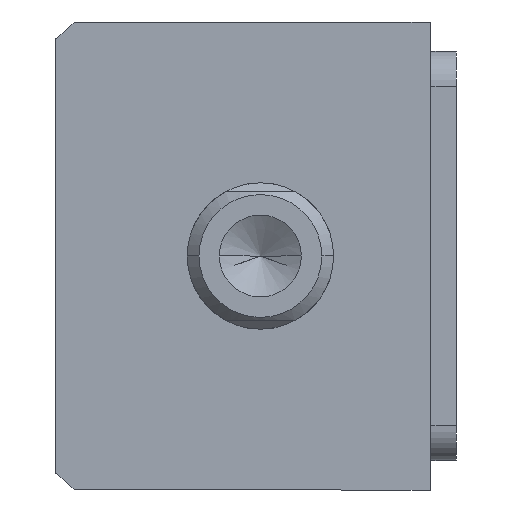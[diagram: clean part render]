
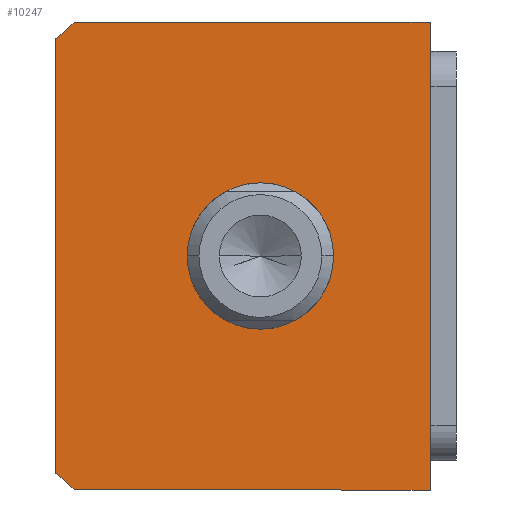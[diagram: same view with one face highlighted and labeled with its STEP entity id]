
A CAD part, front view. The second image highlights one B-rep face of the part: STEP entity #10247.
In plain terms, the highlighted planar face has unit normal (0, -1, 0) as drawn and (0, 0, -1) by its records, which use the part's own axes.
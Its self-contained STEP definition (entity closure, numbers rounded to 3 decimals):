
#61 = VECTOR ( 'NONE', #9119, 1000. ) ;
#198 = CARTESIAN_POINT ( 'NONE',  ( 37.094, -32., 0. ) ) ;
#384 = DIRECTION ( 'NONE',  ( 0., 0., 1. ) ) ;
#389 = CIRCLE ( 'NONE', #8654, 51. ) ;
#446 = CIRCLE ( 'NONE', #6146, 12.5 ) ;
#479 = ORIENTED_EDGE ( 'NONE', *, *, #9568, .F. ) ;
#485 = CARTESIAN_POINT ( 'NONE',  ( 0., 3., 0. ) ) ;
#749 = ORIENTED_EDGE ( 'NONE', *, *, #9219, .T. ) ;
#975 = VERTEX_POINT ( 'NONE', #7012 ) ;
#1018 = CARTESIAN_POINT ( 'NONE',  ( -40., 32., 0. ) ) ;
#1359 = DIRECTION ( 'NONE',  ( 1., 0., 0. ) ) ;
#1488 = CARTESIAN_POINT ( 'NONE',  ( 0., 3., 0. ) ) ;
#1502 = CARTESIAN_POINT ( 'NONE',  ( -40., -32., 0. ) ) ;
#1606 = CARTESIAN_POINT ( 'NONE',  ( -37.094, -32., 0. ) ) ;
#1637 = LINE ( 'NONE', #3510, #3853 ) ;
#1672 = DIRECTION ( 'NONE',  ( 0., 0., 1. ) ) ;
#2000 = VERTEX_POINT ( 'NONE', #9086 ) ;
#2053 = EDGE_CURVE ( 'NONE', #5499, #2786, #4530, .T. ) ;
#2142 = CARTESIAN_POINT ( 'NONE',  ( 40., -28.639, 0. ) ) ;
#2261 = VERTEX_POINT ( 'NONE', #198 ) ;
#2333 = DIRECTION ( 'NONE',  ( 1., 0., 0. ) ) ;
#2393 = CARTESIAN_POINT ( 'NONE',  ( 0., 0., 0. ) ) ;
#2430 = CARTESIAN_POINT ( 'NONE',  ( -12.5, 3., 0. ) ) ;
#2558 = CIRCLE ( 'NONE', #10325, 51. ) ;
#2615 = VERTEX_POINT ( 'NONE', #5564 ) ;
#2786 = VERTEX_POINT ( 'NONE', #8137 ) ;
#3180 = DIRECTION ( 'NONE',  ( 1., 0., 0. ) ) ;
#3452 = ORIENTED_EDGE ( 'NONE', *, *, #8664, .F. ) ;
#3510 = CARTESIAN_POINT ( 'NONE',  ( -40., 32., 0. ) ) ;
#3577 = LINE ( 'NONE', #1502, #9564 ) ;
#3853 = VECTOR ( 'NONE', #4307, 1000. ) ;
#3897 = VERTEX_POINT ( 'NONE', #2430 ) ;
#4051 = DIRECTION ( 'NONE',  ( 1., 0., 0. ) ) ;
#4307 = DIRECTION ( 'NONE',  ( 0., -1., 0. ) ) ;
#4530 = LINE ( 'NONE', #9955, #61 ) ;
#4668 = ORIENTED_EDGE ( 'NONE', *, *, #7062, .T. ) ;
#5061 = FACE_OUTER_BOUND ( 'NONE', #6827, .T. ) ;
#5099 = ORIENTED_EDGE ( 'NONE', *, *, #8239, .F. ) ;
#5313 = AXIS2_PLACEMENT_3D ( 'NONE', #6603, #1672, #7403 ) ;
#5373 = CARTESIAN_POINT ( 'NONE',  ( 0., 3., 0. ) ) ;
#5499 = VERTEX_POINT ( 'NONE', #2142 ) ;
#5564 = CARTESIAN_POINT ( 'NONE',  ( 12.5, 3., 0. ) ) ;
#5854 = FACE_BOUND ( 'NONE', #9053, .T. ) ;
#5875 = LINE ( 'NONE', #1018, #7759 ) ;
#6146 = AXIS2_PLACEMENT_3D ( 'NONE', #5373, #384, #6210 ) ;
#6210 = DIRECTION ( 'NONE',  ( 1., 0., 0. ) ) ;
#6304 = DIRECTION ( 'NONE',  ( 0., 0., 1. ) ) ;
#6603 = CARTESIAN_POINT ( 'NONE',  ( 0., 3., 0. ) ) ;
#6794 = DIRECTION ( 'NONE',  ( -1., 0., 0. ) ) ;
#6827 = EDGE_LOOP ( 'NONE', ( #7588, #5099, #3452, #10244, #479, #6905 ) ) ;
#6888 = CIRCLE ( 'NONE', #5313, 12.5 ) ;
#6905 = ORIENTED_EDGE ( 'NONE', *, *, #9019, .F. ) ;
#7012 = CARTESIAN_POINT ( 'NONE',  ( -40., 32., 0. ) ) ;
#7062 = EDGE_CURVE ( 'NONE', #2615, #3897, #446, .T. ) ;
#7231 = DIRECTION ( 'NONE',  ( 0., 0., 1. ) ) ;
#7288 = PLANE ( 'NONE',  #10474 ) ;
#7403 = DIRECTION ( 'NONE',  ( 1., 0., 0. ) ) ;
#7588 = ORIENTED_EDGE ( 'NONE', *, *, #7763, .F. ) ;
#7759 = VECTOR ( 'NONE', #6794, 1000. ) ;
#7763 = EDGE_CURVE ( 'NONE', #2000, #8030, #2558, .T. ) ;
#8030 = VERTEX_POINT ( 'NONE', #1606 ) ;
#8137 = CARTESIAN_POINT ( 'NONE',  ( 40., 32., 0. ) ) ;
#8239 = EDGE_CURVE ( 'NONE', #975, #2000, #1637, .T. ) ;
#8654 = AXIS2_PLACEMENT_3D ( 'NONE', #1488, #7231, #2333 ) ;
#8664 = EDGE_CURVE ( 'NONE', #2786, #975, #5875, .T. ) ;
#8926 = DIRECTION ( 'NONE',  ( 0., 0., 1. ) ) ;
#9019 = EDGE_CURVE ( 'NONE', #8030, #2261, #3577, .T. ) ;
#9053 = EDGE_LOOP ( 'NONE', ( #4668, #749 ) ) ;
#9086 = CARTESIAN_POINT ( 'NONE',  ( -40., -28.639, 0. ) ) ;
#9119 = DIRECTION ( 'NONE',  ( 0., 1., 0. ) ) ;
#9219 = EDGE_CURVE ( 'NONE', #3897, #2615, #6888, .T. ) ;
#9564 = VECTOR ( 'NONE', #3180, 1000. ) ;
#9568 = EDGE_CURVE ( 'NONE', #2261, #5499, #389, .T. ) ;
#9955 = CARTESIAN_POINT ( 'NONE',  ( 40., 32., 0. ) ) ;
#10244 = ORIENTED_EDGE ( 'NONE', *, *, #2053, .F. ) ;
#10247 = ADVANCED_FACE ( 'NONE', ( #5854, #5061 ), #7288, .F. ) ;
#10325 = AXIS2_PLACEMENT_3D ( 'NONE', #485, #6304, #1359 ) ;
#10474 = AXIS2_PLACEMENT_3D ( 'NONE', #2393, #8926, #4051 ) ;
